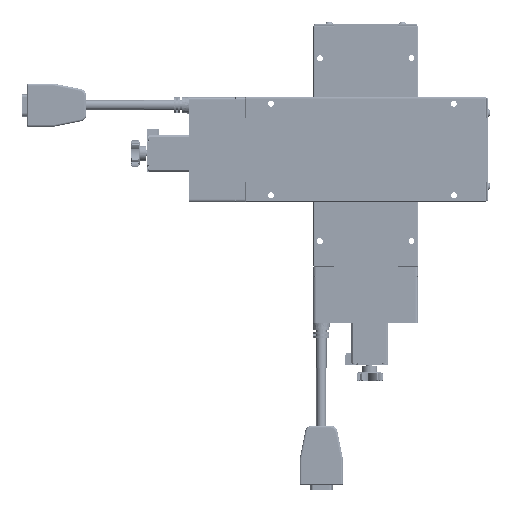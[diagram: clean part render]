
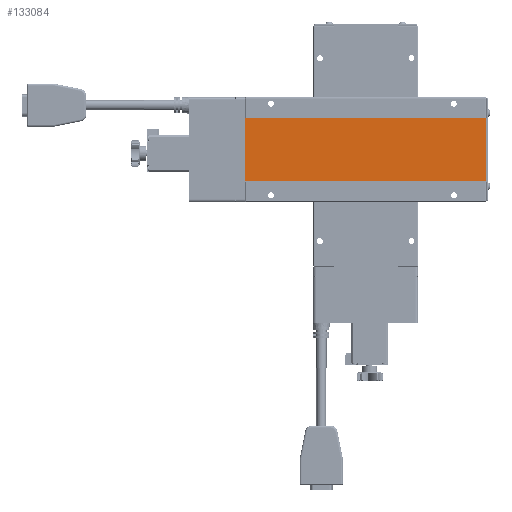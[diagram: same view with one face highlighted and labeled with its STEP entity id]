
A CAD part, front view. The second image highlights one B-rep face of the part: STEP entity #133084.
In plain terms, the highlighted planar face has unit normal (0, -1, 0).
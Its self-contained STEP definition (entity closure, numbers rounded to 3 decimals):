
#28352 = CARTESIAN_POINT ( 'NONE',  ( 24.3, 0.5, 0.2 ) ) ;
#36303 = CARTESIAN_POINT ( 'NONE',  ( -24.3, 0.5, 0.2 ) ) ;
#51003 = VERTEX_POINT ( 'NONE', #121692 ) ;
#61699 = LINE ( 'NONE', #28352, #397807 ) ;
#66536 = DIRECTION ( 'NONE',  ( 0., 1., 0. ) ) ;
#83386 = CARTESIAN_POINT ( 'NONE',  ( -24.3, 0.5, 0.2 ) ) ;
#89080 = VECTOR ( 'NONE', #123354, 1000. ) ;
#97756 = DIRECTION ( 'NONE',  ( -1., 0., 0. ) ) ;
#102911 = EDGE_CURVE ( 'NONE', #51003, #207462, #269995, .T. ) ;
#109241 = DIRECTION ( 'NONE',  ( -1., 0., 0. ) ) ;
#121692 = CARTESIAN_POINT ( 'NONE',  ( -24.3, 0.5, 0.2 ) ) ;
#123354 = DIRECTION ( 'NONE',  ( 0., 0., -1. ) ) ;
#133084 = ADVANCED_FACE ( 'NONE', ( #398103 ), #395901, .F. ) ;
#134519 = EDGE_CURVE ( 'NONE', #207462, #425911, #61699, .T. ) ;
#189627 = CARTESIAN_POINT ( 'NONE',  ( -24.3, 0.5, 184.8 ) ) ;
#207462 = VERTEX_POINT ( 'NONE', #381818 ) ;
#226963 = CARTESIAN_POINT ( 'NONE',  ( -24.3, 0.5, 184.8 ) ) ;
#234618 = ORIENTED_EDGE ( 'NONE', *, *, #302311, .T. ) ;
#263730 = ORIENTED_EDGE ( 'NONE', *, *, #363546, .T. ) ;
#265998 = VERTEX_POINT ( 'NONE', #189627 ) ;
#269995 = LINE ( 'NONE', #36303, #293145 ) ;
#278331 = LINE ( 'NONE', #413945, #280282 ) ;
#280282 = VECTOR ( 'NONE', #109241, 1000. ) ;
#293145 = VECTOR ( 'NONE', #374434, 1000. ) ;
#299740 = DIRECTION ( 'NONE',  ( 0., 0., 1. ) ) ;
#302311 = EDGE_CURVE ( 'NONE', #265998, #51003, #363512, .T. ) ;
#327981 = EDGE_LOOP ( 'NONE', ( #234618, #378863, #376194, #263730 ) ) ;
#363512 = LINE ( 'NONE', #83386, #89080 ) ;
#363546 = EDGE_CURVE ( 'NONE', #425911, #265998, #278331, .T. ) ;
#374434 = DIRECTION ( 'NONE',  ( 1., 0., 0. ) ) ;
#376194 = ORIENTED_EDGE ( 'NONE', *, *, #134519, .T. ) ;
#378863 = ORIENTED_EDGE ( 'NONE', *, *, #102911, .T. ) ;
#381818 = CARTESIAN_POINT ( 'NONE',  ( 24.3, 0.5, 0.2 ) ) ;
#382538 = AXIS2_PLACEMENT_3D ( 'NONE', #226963, #66536, #97756 ) ;
#385608 = CARTESIAN_POINT ( 'NONE',  ( 24.3, 0.5, 184.8 ) ) ;
#395901 = PLANE ( 'NONE',  #382538 ) ;
#397807 = VECTOR ( 'NONE', #299740, 1000. ) ;
#398103 = FACE_OUTER_BOUND ( 'NONE', #327981, .T. ) ;
#413945 = CARTESIAN_POINT ( 'NONE',  ( -24.3, 0.5, 184.8 ) ) ;
#425911 = VERTEX_POINT ( 'NONE', #385608 ) ;
